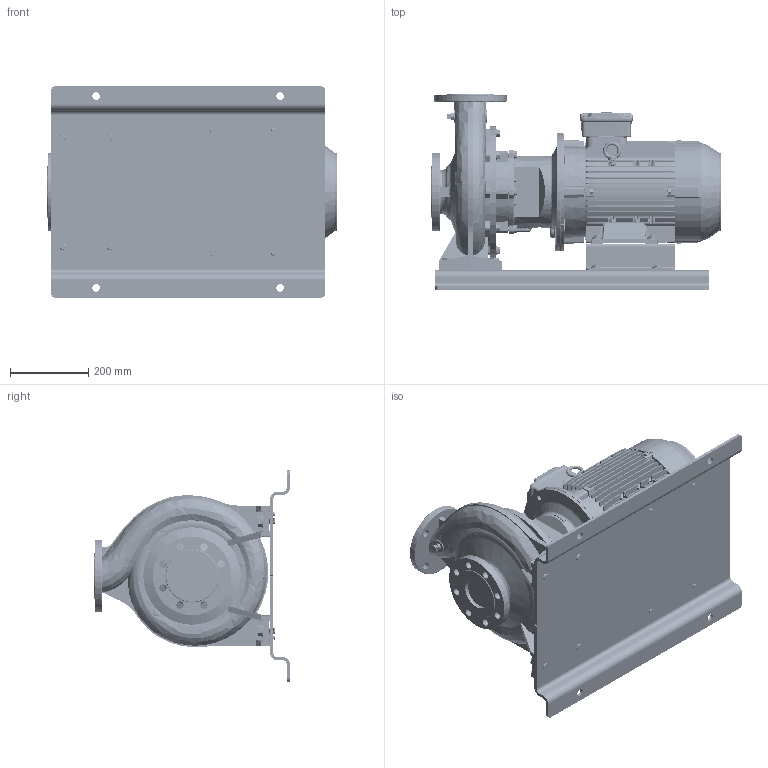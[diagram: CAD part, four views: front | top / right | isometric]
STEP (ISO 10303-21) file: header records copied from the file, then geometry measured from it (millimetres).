
FILE_DESCRIPTION (( 'STEP AP214' ), '1' );
FILE_NAME ('GSD4 65-250_5.5_(132S)_W21_BP.STEP', '2026-05-26T01:15:58', ( '' ), ( '' ), 'SwSTEP 2.0', 'SolidWorks 2024', '' );
FILE_SCHEMA (( 'AUTOMOTIVE_DESIGN' ));
Length unit declared in the file: millimetre
Products named in the file (13): Parametric bolt and washer_SFT-A353B; GSD4 65-250_5.5_(132S)_W21_BP; Parametric bolt_SFT-A353B; Parametric bolt_SFT-A249B; Parametric bolt and washer_SFT-A253B; Parametric Flat Washer_M10; 65-250-132S_ﾃﾞﾌｫﾙﾄ; 132S ALIE3_W21T_B35; 140_178 x 68 BP - 271472191; N6S6 GSDA-663 F1-1832933-00; Parametric bolt and washer_SFT-A249B; Parametric Flat Washer_M16; Parametric bolt_SFT-A253B
Assembly tree (22 placements, depth 3):
  GSD4 65-250_5.5_(132S)_W21_BP
    65-250-132S_ﾃﾞﾌｫﾙﾄ
    N6S6 GSDA-663 F1-1832933-00
    140_178 x 68 BP - 271472191
    Parametric bolt and washer_SFT-A353B  x4
      Parametric bolt_SFT-A353B
      Parametric Flat Washer_M16
    Parametric bolt and washer_SFT-A249B  x4
      Parametric bolt_SFT-A249B
      Parametric Flat Washer_M10
    Parametric bolt and washer_SFT-A253B  x4
      Parametric bolt_SFT-A253B
      Parametric Flat Washer_M10
    132S ALIE3_W21T_B35
Bounding box: 739.8 x 500 x 540 mm (x, y, z)
Volume: 38231892.6 mm3; surface area: 3203367.6 mm2
Topology: 32 solids, 32 shells, 5156 faces, 13358 edges, 8623 vertices
Faces by surface type: plane 3009, cylinder 1257, torus 289, bspline 288, cone 281, sphere 32
Entity records: 179886 total; most frequent: CARTESIAN_POINT 68353, ORIENTED_EDGE 23996, DIRECTION 21654, EDGE_CURVE 11998, LINE 7876, VECTOR 7876, VERTEX_POINT 7750, AXIS2_PLACEMENT_3D 6889
